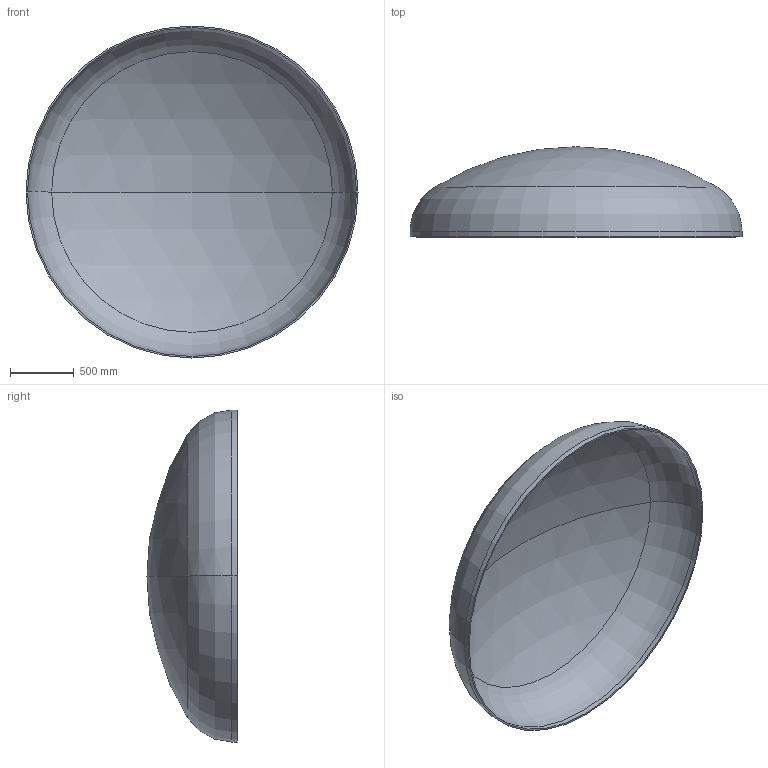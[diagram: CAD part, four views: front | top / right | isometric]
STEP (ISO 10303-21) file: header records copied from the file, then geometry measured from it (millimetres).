
FILE_DESCRIPTION (( 'STEP AP203' ), '1' );
FILE_NAME ('DIN 28013 Korbbogenform_-_Boden DIN 28013 - 2600 x 40 - I - s=12.step', '2016-07-01T15:54:01', ( '' ), ( '' ), 'SwSTEP 2.0', 'SolidWorks 2013', '' );
FILE_SCHEMA (( 'CONFIG_CONTROL_DESIGN' ));
Length unit declared in the file: millimetre
Products named in the file (1): DIN 28013 Korbbogenform_-_Boden DIN 28013 - 2600 x 40 - I - s=12
Bounding box: 2600 x 705.87 x 2600 mm (x, y, z)
Volume: 91591899.8 mm3; surface area: 15363177.5 mm2
Topology: 1 solids, 1 shells, 13 faces, 24 edges, 14 vertices
Faces by surface type: torus 4, cylinder 4, sphere 4, plane 1
Entity records: 407 total; most frequent: DIRECTION 72, CARTESIAN_POINT 52, ORIENTED_EDGE 48, AXIS2_PLACEMENT_3D 34, EDGE_CURVE 24, CIRCLE 20, VERTEX_POINT 14, EDGE_LOOP 14
